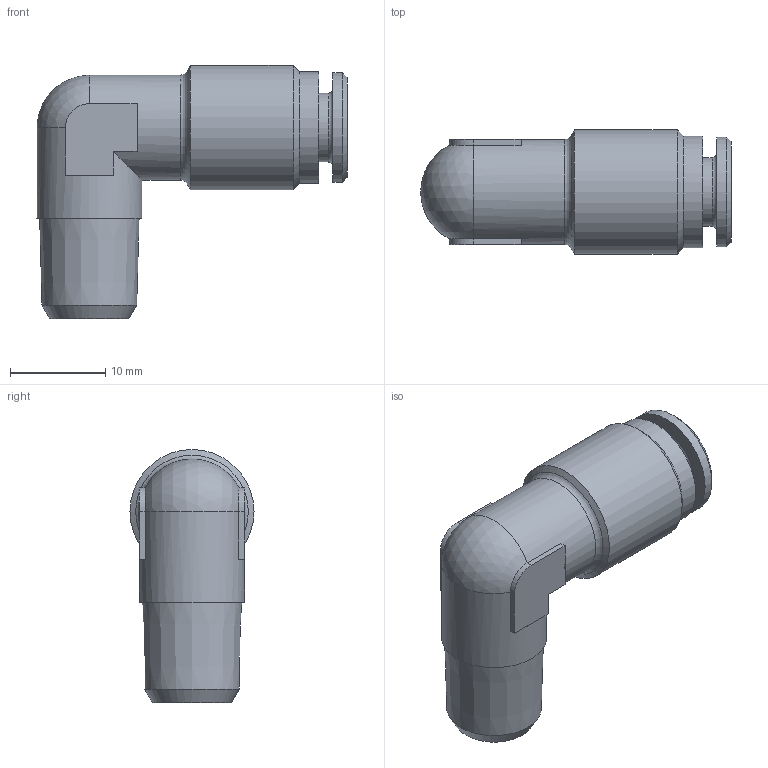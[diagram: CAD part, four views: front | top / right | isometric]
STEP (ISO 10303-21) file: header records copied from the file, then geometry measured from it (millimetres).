
FILE_DESCRIPTION(/* description */ (''),/* implementation_level */ '2;1');
FILE_NAME(/* name */ 'H190610_HDS19_6_M10X1K_04.05.17',/* time_stamp */ '2017-05-04T14:08:40+02:00',/* author */ (''),/* organization */ (''),/* preprocessor_version */ 'ST-DEVELOPER v16.5',/* originating_system */ 'HiCAD 2016 2102.1 Build 498',/* authorisation */ '');
FILE_SCHEMA (('AUTOMOTIVE_DESIGN { 1 0 10303 214 1 1 1 1 }'));
Length unit declared in the file: millimetre
Products named in the file (3): Root; RH190610; DR6-C_HDX_25.07.16
Assembly tree (2 placements, depth 2):
  Root
    RH190610
    DR6-C_HDX_25.07.16
Bounding box: 32.5 x 13 x 26.5 mm (x, y, z)
Volume: 3118.2 mm3; surface area: 3445.9 mm2
Topology: 2 solids, 2 shells, 61 faces, 135 edges, 81 vertices
Faces by surface type: plane 26, cylinder 15, cone 14, torus 5, sphere 1
Full cylindrical faces by diameter (mm): 4 x1, 5.5 x1, 6.2 x1, 6.3 x1, 7.2 x1, 9.9 x1, 10 x1, 10.3 x1, 11 x2, 11.5 x1, 11.7 x1, 13 x1
Entity records: 2637 total; most frequent: CARTESIAN_POINT 424, DIRECTION 274, PRESENTATION_STYLE_ASSIGNMENT 192, COLOUR_RGB 192, DRAUGHTING_PRE_DEFINED_CURVE_FONT 190, CURVE_STYLE 190, OVER_RIDING_STYLED_ITEM 190, ORIENTED_EDGE 190
